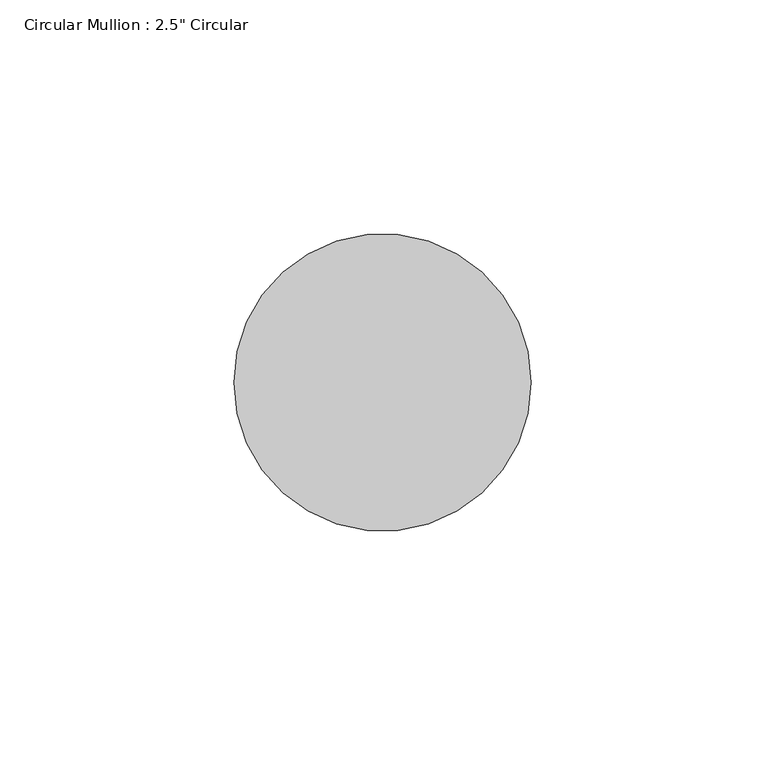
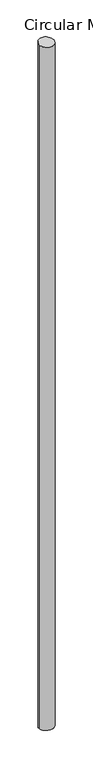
"""IFC4 building model written with IfcOpenShell, lengths in millimetres: member geometry."""

from ifc_helpers import new_model, si_unit, frame, origin, origin_with_axes, place, context, project, spatial, ellipse_curve, source, transform, mapped, element, save
from ifc_brep_helpers import plane_surface, cylinder_surface, advanced_brep


def member_e72a07f9(model_context):
    return source(origin(), model_context, "Body", "AdvancedBrep", [
        advanced_brep(
        [(-31.75, 0.0, 0.6806514), (31.75, 0.0, -0.6806514), (31.75, 0.0, -3083.0698665), (-31.75, 0.0, -3084.2235295)],
        [
            (0, 1, ellipse_curve(frame((0.0, 0.0, 0.0), z_axis=(-0.021345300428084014, 0.09032721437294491, -0.995683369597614), x_axis=(-0.22898407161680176, 0.9689951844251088, 0.09281501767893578)), 31.8876472, 31.75)),
            (1, 2),
            (2, 3, ellipse_curve(frame((0.0, 0.0, -3083.646698), z_axis=(-0.018112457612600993, 0.07595009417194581, 0.9969471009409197), x_axis=(0.23126504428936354, -0.9697525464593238, 0.07807994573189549)), 31.8472264, 31.75)),
            (3, 0),
            (1, 0, ellipse_curve(frame((0.0, 0.0, 0.0), z_axis=(-0.021345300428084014, 0.09032721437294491, -0.995683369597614), x_axis=(-0.22898407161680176, 0.9689951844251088, 0.09281501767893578)), 31.8876472, 31.75)),
            (3, 2, ellipse_curve(frame((0.0, 0.0, -3083.646698), z_axis=(-0.018112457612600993, 0.07595009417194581, 0.9969471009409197), x_axis=(0.23126504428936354, -0.9697525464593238, 0.07807994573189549)), 31.8472264, 31.75)),
        ],
        [
            cylinder_surface(origin_with_axes(), 31.75),
            plane_surface(frame((296.630175, 70.0969276, 0.0), z_axis=(0.021345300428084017, -0.09032721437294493, 0.9956833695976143), x_axis=(0.22898407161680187, -0.9689951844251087, -0.09281501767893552))),
            plane_surface(frame((296.4857171, 70.7054421, -3083.646698), z_axis=(0.018112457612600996, -0.07595009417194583, -0.9969471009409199), x_axis=(0.23126504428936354, -0.969752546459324, 0.07807994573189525))),
        ],
        [
            (0, [[1, 2, 3, 4]]),
            (0, [[5, -4, 6, -2]]),
            (1, [[-1, -5]]),
            (2, [[-6, -3]]),
        ],
    ),
    ])


if __name__ == "__main__":
    model = new_model("IFC4")
    model_context = context("Model", 3, world=origin())
    ifc_project = project(units=[si_unit("LENGTHUNIT", "METRE", prefix="MILLI")], contexts=[model_context])
    site = spatial("IfcSite", under=ifc_project)
    building = spatial("IfcBuilding", under=site)
    placement = place(None, origin())
    member_shape = member_e72a07f9(model_context)
    element("IfcMember", 1, ObjectType="Circular Mullion : 2.5\" Circular", at=placement, inside=building, context=model_context, shape_type="MappedRepresentation", body=[
        mapped(member_shape, transform((0.0, 0.0, 0.0), x_axis=(1.0, 0.0, 0.0), y_axis=(0.0, 1.0, 0.0), z_axis=(0.0, 0.0, 1.0))),
    ])
    save(model, "model.ifc")
